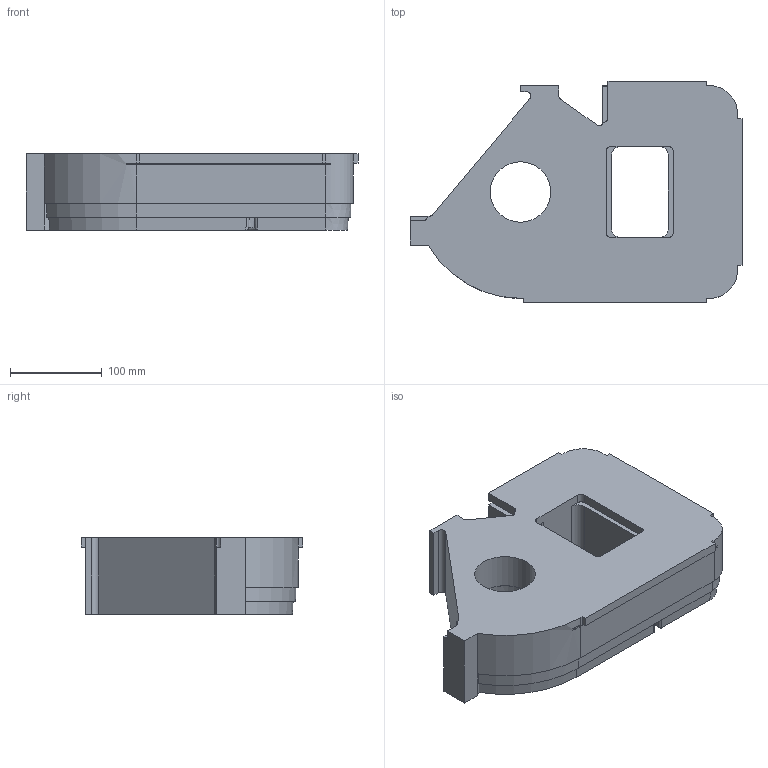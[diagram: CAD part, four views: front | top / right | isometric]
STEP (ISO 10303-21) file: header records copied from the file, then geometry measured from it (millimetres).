
FILE_DESCRIPTION(('STEP AP203'), '1');
FILE_NAME('14 Ïóàíñîí', '', ('UNSPECIFIED'), ('UNSPECIFIED'), 'C3D Converter', 'C3D Toolkit', '');
FILE_SCHEMA(('CONFIG_CONTROL_DESIGN'));
Length unit declared in the file: millimetre
Products named in the file (1): ПФН 295 106/14
Bounding box: 362.2 x 242 x 83.2 mm (x, y, z)
Volume: 4488212.6 mm3; surface area: 284487.1 mm2
Topology: 1 solids, 1 shells, 315 faces, 830 edges, 495 vertices
Faces by surface type: plane 104, cylinder 93, bspline 85, torus 16, cone 11, sphere 6
Full cylindrical faces by diameter (mm): 66 x1
Entity records: 24330 total; most frequent: CARTESIAN_POINT 14863, ORIENTED_EDGE 1610, DIRECTION 1204, EDGE_CURVE 805, VERTEX_POINT 495, AXIS2_PLACEMENT_3D 422, LINE 360, VECTOR 360
